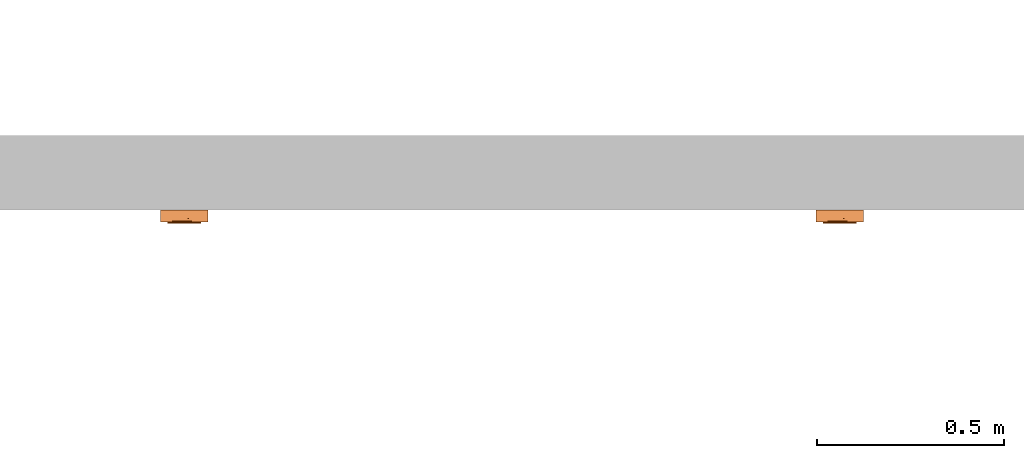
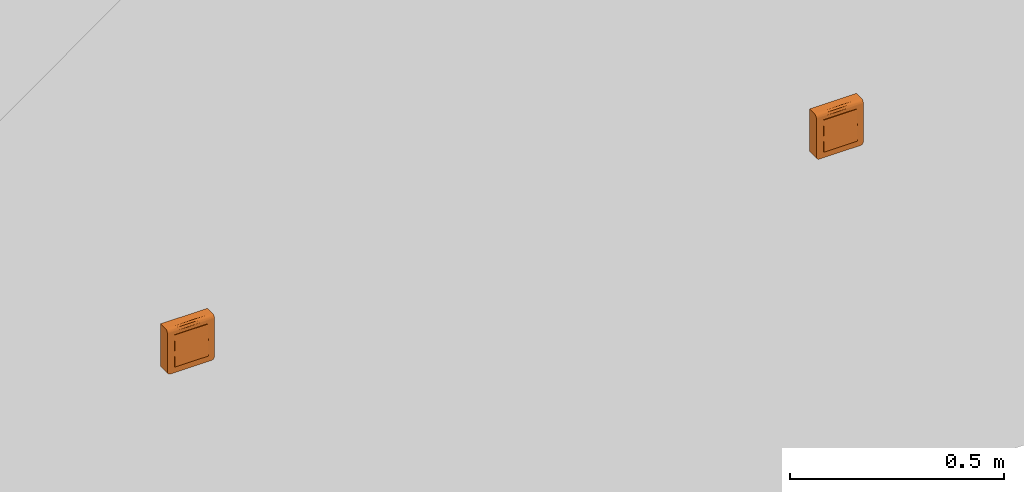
# One storey, part 172 of 197: 2 proxies.
"""IFC2X3 building model written with IfcOpenShell, lengths in metres."""

from ifc_helpers import new_model, entity, si_unit, converted_unit, direction, frame, origin, place, context, subcontext, project, spatial, faceted_brep, source, transform, mapped, material, material_list, type_object, type_shapes, element, save


model = new_model("IFC2X3")

# Units and contexts
model_context = context("Model", 3, precision=1e-05, world=origin(), true_north=direction((6.123031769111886e-17, 1.0)))
body_context = subcontext(model_context, "Body", "Model", "MODEL_VIEW")
ifc_project = project(units=[si_unit("LENGTHUNIT", "METRE"), converted_unit("PLANEANGLEUNIT", "DEGREE", entity("IfcPlaneAngleMeasure", 0.017453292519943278), si_unit("PLANEANGLEUNIT", "RADIAN"), dimensions=[0, 0, 0, 0, 0, 0, 0]), si_unit("AREAUNIT", "SQUARE_METRE")], contexts=[model_context])

# Site, building, storey
site_placement = place(None, origin())
site = spatial("IfcSite", under=ifc_project, at=site_placement, Name="Default", CompositionType="ELEMENT")
building_placement = place(site_placement, origin())
building = spatial("IfcBuilding", under=site, at=building_placement, CompositionType="ELEMENT")
storey_placement = place(building_placement, origin())
storey = spatial("IfcBuildingStorey", under=building, at=storey_placement, Name="Niveau 0", CompositionType="ELEMENT", Elevation=0.0)

# Proxies
ifc_material_1 = material(Name="BETCE-CADRE-BLANC")
ifc_material_2 = material(Name="BETCE-DOIGT-BLANC")
ifc_material_3 = material(Name="BETCE-ENJOLIVEUR-BLANC")
ifc_material_list = material_list([ifc_material_1, ifc_material_2, ifc_material_3])
building_element_proxy_type_1 = type_object("IfcBuildingElementProxyType", Name="Tableau commande 2x4 modules saillie:7 SA + 1 VV", PredefinedType="NOTDEFINED", material=ifc_material_list)
shared_shape_1 = source(origin(), body_context, "Body", "Brep", [
    faceted_brep([(0.06349999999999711, -0.022999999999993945, 0.0635), (-0.06350000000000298, -0.022999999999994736, 0.0635), (-0.06350000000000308, -0.022999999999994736, -0.055499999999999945), (-0.06322740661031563, -0.022999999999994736, -0.05757055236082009), (-0.06242820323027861, -0.02299999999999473, -0.059499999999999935), (-0.06115685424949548, -0.022999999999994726, -0.06115685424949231), (-0.05950000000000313, -0.022999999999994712, -0.06242820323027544), (-0.05757055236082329, -0.0229999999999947, -0.06322740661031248), (-0.05550000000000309, -0.022999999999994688, -0.06350000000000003), (0.055499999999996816, -0.022999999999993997, -0.0635000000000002), (0.057570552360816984, -0.022999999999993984, -0.06322740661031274), (0.05949999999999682, -0.022999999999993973, -0.062428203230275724), (0.06115685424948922, -0.022999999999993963, -0.061156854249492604), (0.062428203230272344, -0.022999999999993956, -0.05950000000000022), (0.0632274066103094, -0.022999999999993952, -0.0575705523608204), (0.06349999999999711, -0.022999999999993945, -0.05550000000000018), (-0.05550000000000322, 0.0, -0.06349999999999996), (-0.05757055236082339, 0.0, -0.06322740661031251), (-0.05950000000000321, 0.0, -0.062428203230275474), (-0.06115685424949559, 0.0, -0.06115685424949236), (-0.06242820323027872, 0.0, -0.05949999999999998), (-0.06322740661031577, 0.0, -0.05757055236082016), (-0.06350000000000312, 0.0, -0.055499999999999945), (-0.06350000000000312, 0.0, 0.0635), (0.06349999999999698, 0.0, 0.0635), (0.06349999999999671, 0.0, -0.05550000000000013), (0.06322740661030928, 0.0, -0.0575705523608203), (0.06242820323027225, 0.0, -0.05950000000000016), (0.06115685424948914, 0.0, -0.061156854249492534), (0.059499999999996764, 0.0, -0.062428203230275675), (0.05757055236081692, 0.0, -0.06322740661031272), (0.055499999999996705, 0.0, -0.0635)], [[[0, 1, 2, 3, 4, 5, 6, 7, 8, 9, 10, 11, 12, 13, 14, 15]], [[16, 17, 18, 19, 20, 21, 22, 23, 24, 25, 26, 27, 28, 29, 30, 31]], [[2, 1, 23, 22]], [[9, 8, 16, 31]], [[0, 15, 25, 24]], [[1, 0, 24, 23]], [[25, 15, 14, 26]], [[26, 14, 13, 27]], [[27, 13, 12, 28]], [[29, 11, 10, 30]], [[30, 10, 9, 31]], [[28, 12, 11, 29]], [[17, 16, 8, 7]], [[18, 17, 7, 6]], [[19, 18, 6, 5]], [[20, 19, 5, 4]], [[21, 20, 4, 3]], [[22, 21, 3, 2]]]),
    faceted_brep([(0.022499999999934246, -0.022999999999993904, -0.045000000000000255), (0.022499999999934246, -0.022999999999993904, 0.0), (0.04499999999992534, -0.022999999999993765, 0.0), (0.04499999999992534, -0.022999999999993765, -0.045000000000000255), (0.022499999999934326, -0.03574999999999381, -0.045000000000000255), (0.02249999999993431, -0.033499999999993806, 0.0), (0.044999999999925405, -0.03349999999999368, 0.0), (0.04499999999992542, -0.03574999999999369, -0.045000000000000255)], [[[0, 1, 2, 3]], [[1, 0, 4, 5]], [[2, 1, 5, 6]], [[3, 2, 6, 7]], [[0, 3, 7, 4]], [[5, 4, 7, 6]]]),
    faceted_brep([(0.0, -0.022999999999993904, -0.04500000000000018), (0.0, -0.022999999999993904, 0.0), (0.02249999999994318, -0.022999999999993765, 0.0), (0.02249999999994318, -0.022999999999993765, -0.04500000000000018), (0.0, -0.03574999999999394, -0.04500000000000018), (0.0, -0.03349999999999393, 0.0), (0.022499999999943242, -0.033499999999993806, 0.0), (0.02249999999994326, -0.03574999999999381, -0.04500000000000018)], [[[0, 1, 2, 3]], [[1, 0, 4, 5]], [[2, 1, 5, 6]], [[3, 2, 6, 7]], [[0, 3, 7, 4]], [[5, 4, 7, 6]]]),
    faceted_brep([(-0.02250000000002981, -0.022999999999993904, -0.0450000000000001), (-0.02250000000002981, -0.022999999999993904, 0.0), (0.0, -0.022999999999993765, 0.0), (0.0, -0.022999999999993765, -0.0450000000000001), (-0.02250000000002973, -0.03574999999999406, -0.0450000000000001), (-0.022500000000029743, -0.03349999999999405, 0.0), (0.0, -0.033499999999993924, 0.0), (0.0, -0.03574999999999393, -0.0450000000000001)], [[[0, 1, 2, 3]], [[1, 0, 4, 5]], [[2, 1, 5, 6]], [[3, 2, 6, 7]], [[0, 3, 7, 4]], [[5, 4, 7, 6]]]),
    faceted_brep([(-0.04500000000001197, -0.022999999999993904, -0.045000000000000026), (-0.04500000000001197, -0.022999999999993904, 0.0), (-0.022500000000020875, -0.022999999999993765, 0.0), (-0.022500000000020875, -0.022999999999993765, -0.045000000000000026), (-0.04500000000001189, -0.03574999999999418, -0.045000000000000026), (-0.0450000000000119, -0.03349999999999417, 0.0), (-0.02250000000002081, -0.03349999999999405, 0.0), (-0.022500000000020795, -0.03574999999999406, -0.045000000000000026)], [[[0, 1, 2, 3]], [[1, 0, 4, 5]], [[2, 1, 5, 6]], [[3, 2, 6, 7]], [[0, 3, 7, 4]], [[5, 4, 7, 6]]]),
    faceted_brep([(0.02249999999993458, -0.03349999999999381, 0.04499999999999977), (0.022499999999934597, -0.03574999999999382, 0.0), (0.04499999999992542, -0.0357499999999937, 0.0), (0.044999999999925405, -0.03349999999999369, 0.04499999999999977), (0.022499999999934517, -0.022999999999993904, 0.0), (0.022499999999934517, -0.022999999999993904, 0.04499999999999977), (0.04499999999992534, -0.022999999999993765, 0.04499999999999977), (0.04499999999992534, -0.022999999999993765, 0.0)], [[[0, 1, 2, 3]], [[4, 5, 6, 7]], [[5, 4, 1, 0]], [[6, 5, 0, 3]], [[7, 6, 3, 2]], [[4, 7, 2, 1]]]),
    faceted_brep([(0.0, -0.03349999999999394, 0.044999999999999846), (0.0, -0.035749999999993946, 0.0), (0.02249999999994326, -0.03574999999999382, 0.0), (0.022499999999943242, -0.03349999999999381, 0.044999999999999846), (0.0, -0.022999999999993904, 0.0), (0.0, -0.022999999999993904, 0.044999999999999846), (0.02249999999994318, -0.022999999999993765, 0.04499999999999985), (0.02249999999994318, -0.022999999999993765, 0.0)], [[[0, 1, 2, 3]], [[4, 5, 6, 7]], [[5, 4, 1, 0]], [[6, 5, 0, 3]], [[7, 6, 3, 2]], [[4, 7, 2, 1]]]),
    faceted_brep([(-0.022500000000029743, -0.03349999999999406, 0.04499999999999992), (-0.02250000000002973, -0.03574999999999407, 0.0), (0.0, -0.03574999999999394, 0.0), (0.0, -0.03349999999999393, 0.04499999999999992), (-0.02250000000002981, -0.022999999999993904, 0.0), (-0.02250000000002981, -0.022999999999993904, 0.04499999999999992), (0.0, -0.022999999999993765, 0.04499999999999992), (0.0, -0.022999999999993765, 0.0)], [[[0, 1, 2, 3]], [[4, 5, 6, 7]], [[5, 4, 1, 0]], [[6, 5, 0, 3]], [[7, 6, 3, 2]], [[4, 7, 2, 1]]]),
    faceted_brep([(-0.04500000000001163, -0.03349999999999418, 0.045), (-0.045000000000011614, -0.03574999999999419, 0.0), (-0.022500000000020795, -0.035749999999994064, 0.0), (-0.02250000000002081, -0.03349999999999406, 0.045), (-0.0450000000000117, -0.022999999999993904, 0.0), (-0.0450000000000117, -0.022999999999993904, 0.045), (-0.022500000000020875, -0.022999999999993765, 0.045000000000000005), (-0.022500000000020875, -0.022999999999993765, 0.0)], [[[0, 1, 2, 3]], [[4, 5, 6, 7]], [[5, 4, 1, 0]], [[6, 5, 0, 3]], [[7, 6, 3, 2]], [[4, 7, 2, 1]]]),
    faceted_brep([(0.06349999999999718, -0.03199999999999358, -0.055500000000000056), (0.063499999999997, -0.03199999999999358, 0.05450000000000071), (0.04499999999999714, -0.03199999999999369, -0.045000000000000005), (0.05549999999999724, -0.03199999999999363, -0.06350000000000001), (0.057570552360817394, -0.03199999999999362, -0.06322740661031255), (0.06322740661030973, -0.03199999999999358, -0.05757055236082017), (0.04499999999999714, -0.03199999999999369, 0.045), (-0.04500000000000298, -0.031999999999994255, 0.045000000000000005), (-0.011124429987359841, -0.03199999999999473, 0.054500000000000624), (-0.06350000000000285, -0.03199999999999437, 0.05450000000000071), (-0.04500000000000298, -0.031999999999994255, -0.045000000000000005), (-0.06350000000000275, -0.03199999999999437, -0.05550000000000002), (-0.05550000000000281, -0.03199999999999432, -0.06350000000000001), (-0.05757055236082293, -0.03199999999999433, -0.06322740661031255), (-0.06322740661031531, -0.031999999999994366, -0.05757055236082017), (-0.05950000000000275, -0.031999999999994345, -0.062428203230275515), (-0.06242820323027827, -0.03199999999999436, -0.05950000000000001), (-0.06115685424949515, -0.03199999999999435, -0.06115685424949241), (0.05949999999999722, -0.0319999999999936, -0.062428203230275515), (0.062428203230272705, -0.03199999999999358, -0.05949999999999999), (0.06115685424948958, -0.031999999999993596, -0.061156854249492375), (-0.06350000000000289, -0.02299999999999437, -0.05550000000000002), (-0.06350000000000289, -0.02299999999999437, 0.06350000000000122), (-0.04500000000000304, -0.02299999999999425, 0.045000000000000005), (-0.04500000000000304, -0.02299999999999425, -0.045000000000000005), (-0.05550000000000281, -0.02299999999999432, -0.06350000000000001), (-0.06322740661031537, -0.022999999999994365, -0.05757055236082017), (0.04499999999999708, -0.022999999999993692, 0.045000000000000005), (0.011124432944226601, -0.022999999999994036, 0.06350000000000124), (0.06349999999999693, -0.022999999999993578, 0.0635), (0.06349999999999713, -0.022999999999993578, -0.05550000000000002), (0.04499999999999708, -0.022999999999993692, -0.045000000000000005), (0.05549999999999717, -0.02299999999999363, -0.06350000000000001), (0.06322740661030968, -0.022999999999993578, -0.05757055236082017), (0.05757055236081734, -0.022999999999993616, -0.06322740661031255), (0.06242820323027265, -0.022999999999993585, -0.05949999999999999), (0.05949999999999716, -0.022999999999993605, -0.062428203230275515), (0.06115685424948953, -0.02299999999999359, -0.061156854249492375), (-0.05757055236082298, -0.02299999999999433, -0.06322740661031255), (-0.062428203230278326, -0.022999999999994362, -0.05950000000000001), (-0.05950000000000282, -0.022999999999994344, -0.062428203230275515), (-0.0611568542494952, -0.02299999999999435, -0.06115685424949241), (0.06349999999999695, -0.025329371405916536, 0.06319333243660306), (0.06349999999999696, -0.02749999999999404, 0.06229422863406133), (0.06349999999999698, -0.029363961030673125, 0.060863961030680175), (0.06349999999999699, -0.03079422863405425, 0.05900000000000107), (0.06349999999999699, -0.03169333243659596, 0.05682937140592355), (-0.06350000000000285, -0.03169333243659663, 0.0568293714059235), (-0.06350000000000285, -0.030794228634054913, 0.059000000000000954), (-0.06350000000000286, -0.029363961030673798, 0.06086396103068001), (-0.06350000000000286, -0.027499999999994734, 0.062294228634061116), (-0.06350000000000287, -0.025329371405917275, 0.06319333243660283), (-0.010857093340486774, -0.029120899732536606, 0.06109807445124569)], [[[0, 1, 2]], [[3, 0, 2]], [[0, 3, 4]], [[5, 0, 4]], [[2, 1, 6]], [[1, 7, 6]], [[7, 1, 8]], [[7, 8, 9]], [[10, 7, 9]], [[11, 10, 9]], [[12, 10, 11]], [[12, 11, 13]], [[13, 11, 14]], [[15, 13, 14]], [[16, 15, 14]], [[15, 16, 17]], [[10, 12, 3]], [[2, 10, 3]], [[5, 4, 18]], [[5, 18, 19]], [[20, 19, 18]], [[21, 22, 23]], [[24, 21, 23]], [[25, 21, 24]], [[26, 21, 25]], [[22, 27, 23]], [[27, 22, 28]], [[27, 28, 29]], [[30, 27, 29]], [[31, 27, 30]], [[32, 31, 30]], [[32, 30, 33]], [[32, 33, 34]], [[33, 35, 34]], [[35, 36, 34]], [[36, 35, 37]], [[31, 32, 25]], [[26, 25, 38]], [[24, 31, 25]], [[39, 26, 38]], [[39, 38, 40]], [[41, 39, 40]], [[1, 0, 30, 29, 42, 43, 44, 45, 46]], [[33, 30, 0, 5]], [[35, 33, 5, 19]], [[37, 35, 19, 20]], [[36, 37, 20, 18]], [[34, 36, 18, 4]], [[32, 34, 4, 3]], [[25, 32, 3, 12]], [[38, 25, 12, 13]], [[40, 38, 13, 15]], [[41, 40, 15, 17]], [[39, 41, 17, 16]], [[26, 39, 16, 14]], [[21, 26, 14, 11]], [[22, 21, 11, 9, 47, 48, 49, 50, 51]], [[24, 23, 7, 10]], [[31, 24, 10, 2]], [[27, 31, 2, 6]], [[23, 27, 6, 7]], [[52, 8, 45]], [[47, 9, 8]], [[1, 46, 8]], [[44, 52, 45]], [[46, 45, 8]], [[50, 52, 51]], [[48, 47, 8]], [[28, 52, 43]], [[48, 52, 49]], [[42, 29, 28]], [[28, 22, 51]], [[48, 8, 52]], [[28, 43, 42]], [[44, 43, 52]], [[52, 50, 49]], [[52, 28, 51]]]),
])
type_shapes(building_element_proxy_type_1, [shared_shape_1])
proxy_1_placement = place(storey_placement, frame((-336.2517796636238, 116.01635778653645, 1.1)))
element("IfcBuildingElementProxy", 1, at=proxy_1_placement, inside=storey, type_object=building_element_proxy_type_1, material=ifc_material_list, Name="Tableau commande 2x4 modules saillie:7 SA + 1 VV", ObjectType="Tableau commande 2x4 modules saillie:7 SA + 1 VV", context=body_context, shape_type="MappedRepresentation", body=[
    mapped(shared_shape_1, transform((0.0, 0.0, 0.0), scale=1.0)),
])
building_element_proxy_type_2 = type_object("IfcBuildingElementProxyType", Name="Tableau commande 2x4 modules saillie:2 BP + 2 SA + 4 VV", PredefinedType="NOTDEFINED", material=ifc_material_list)
shared_shape_2 = source(origin(), body_context, "Body", "Brep", [
    faceted_brep([(0.06349999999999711, -0.022999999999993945, 0.0635), (-0.06350000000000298, -0.022999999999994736, 0.0635), (-0.06350000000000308, -0.022999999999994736, -0.055499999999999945), (-0.06322740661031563, -0.022999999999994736, -0.05757055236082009), (-0.06242820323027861, -0.02299999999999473, -0.059499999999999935), (-0.06115685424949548, -0.022999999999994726, -0.06115685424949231), (-0.05950000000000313, -0.022999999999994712, -0.06242820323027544), (-0.05757055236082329, -0.0229999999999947, -0.06322740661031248), (-0.05550000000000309, -0.022999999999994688, -0.06350000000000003), (0.055499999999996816, -0.022999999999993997, -0.0635000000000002), (0.057570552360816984, -0.022999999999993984, -0.06322740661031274), (0.05949999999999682, -0.022999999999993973, -0.062428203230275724), (0.06115685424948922, -0.022999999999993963, -0.061156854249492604), (0.062428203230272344, -0.022999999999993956, -0.05950000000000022), (0.0632274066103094, -0.022999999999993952, -0.0575705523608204), (0.06349999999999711, -0.022999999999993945, -0.05550000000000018), (-0.05550000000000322, 0.0, -0.06349999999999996), (-0.05757055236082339, 0.0, -0.06322740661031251), (-0.05950000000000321, 0.0, -0.062428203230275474), (-0.06115685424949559, 0.0, -0.06115685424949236), (-0.06242820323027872, 0.0, -0.05949999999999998), (-0.06322740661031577, 0.0, -0.05757055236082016), (-0.06350000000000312, 0.0, -0.055499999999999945), (-0.06350000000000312, 0.0, 0.0635), (0.06349999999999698, 0.0, 0.0635), (0.06349999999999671, 0.0, -0.05550000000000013), (0.06322740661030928, 0.0, -0.0575705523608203), (0.06242820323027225, 0.0, -0.05950000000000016), (0.06115685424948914, 0.0, -0.061156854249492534), (0.059499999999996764, 0.0, -0.062428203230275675), (0.05757055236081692, 0.0, -0.06322740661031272), (0.055499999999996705, 0.0, -0.0635)], [[[0, 1, 2, 3, 4, 5, 6, 7, 8, 9, 10, 11, 12, 13, 14, 15]], [[16, 17, 18, 19, 20, 21, 22, 23, 24, 25, 26, 27, 28, 29, 30, 31]], [[2, 1, 23, 22]], [[9, 8, 16, 31]], [[0, 15, 25, 24]], [[1, 0, 24, 23]], [[25, 15, 14, 26]], [[26, 14, 13, 27]], [[27, 13, 12, 28]], [[29, 11, 10, 30]], [[30, 10, 9, 31]], [[28, 12, 11, 29]], [[17, 16, 8, 7]], [[18, 17, 7, 6]], [[19, 18, 6, 5]], [[20, 19, 5, 4]], [[21, 20, 4, 3]], [[22, 21, 3, 2]]]),
    faceted_brep([(0.022499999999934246, -0.022999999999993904, -0.045000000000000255), (0.022499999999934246, -0.022999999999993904, 0.0), (0.04499999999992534, -0.022999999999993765, 0.0), (0.04499999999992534, -0.022999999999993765, -0.045000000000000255), (0.022499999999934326, -0.03574999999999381, -0.045000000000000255), (0.02249999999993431, -0.033499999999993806, 0.0), (0.044999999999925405, -0.03349999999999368, 0.0), (0.04499999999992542, -0.03574999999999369, -0.045000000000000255)], [[[0, 1, 2, 3]], [[1, 0, 4, 5]], [[2, 1, 5, 6]], [[3, 2, 6, 7]], [[0, 3, 7, 4]], [[5, 4, 7, 6]]]),
    faceted_brep([(0.0, -0.022999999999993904, -0.04500000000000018), (0.0, -0.022999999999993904, 0.0), (0.02249999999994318, -0.022999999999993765, 0.0), (0.02249999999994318, -0.022999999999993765, -0.04500000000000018), (0.0, -0.03574999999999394, -0.04500000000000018), (0.0, -0.03349999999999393, 0.0), (0.022499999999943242, -0.033499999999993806, 0.0), (0.02249999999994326, -0.03574999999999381, -0.04500000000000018)], [[[0, 1, 2, 3]], [[1, 0, 4, 5]], [[2, 1, 5, 6]], [[3, 2, 6, 7]], [[0, 3, 7, 4]], [[5, 4, 7, 6]]]),
    faceted_brep([(-0.02250000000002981, -0.022999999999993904, -0.0450000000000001), (-0.02250000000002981, -0.022999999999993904, 0.0), (0.0, -0.022999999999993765, 0.0), (0.0, -0.022999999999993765, -0.0450000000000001), (-0.02250000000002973, -0.03574999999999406, -0.0450000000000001), (-0.022500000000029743, -0.03349999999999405, 0.0), (0.0, -0.033499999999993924, 0.0), (0.0, -0.03574999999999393, -0.0450000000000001)], [[[0, 1, 2, 3]], [[1, 0, 4, 5]], [[2, 1, 5, 6]], [[3, 2, 6, 7]], [[0, 3, 7, 4]], [[5, 4, 7, 6]]]),
    faceted_brep([(-0.04500000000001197, -0.022999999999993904, -0.045000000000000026), (-0.04500000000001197, -0.022999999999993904, 0.0), (-0.022500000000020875, -0.022999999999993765, 0.0), (-0.022500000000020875, -0.022999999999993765, -0.045000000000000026), (-0.04500000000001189, -0.03574999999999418, -0.045000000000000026), (-0.0450000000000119, -0.03349999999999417, 0.0), (-0.02250000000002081, -0.03349999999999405, 0.0), (-0.022500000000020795, -0.03574999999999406, -0.045000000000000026)], [[[0, 1, 2, 3]], [[1, 0, 4, 5]], [[2, 1, 5, 6]], [[3, 2, 6, 7]], [[0, 3, 7, 4]], [[5, 4, 7, 6]]]),
    faceted_brep([(0.02249999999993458, -0.03349999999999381, 0.04499999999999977), (0.022499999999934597, -0.03574999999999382, 0.0), (0.04499999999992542, -0.0357499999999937, 0.0), (0.044999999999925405, -0.03349999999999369, 0.04499999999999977), (0.022499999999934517, -0.022999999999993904, 0.0), (0.022499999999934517, -0.022999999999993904, 0.04499999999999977), (0.04499999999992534, -0.022999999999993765, 0.04499999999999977), (0.04499999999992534, -0.022999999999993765, 0.0)], [[[0, 1, 2, 3]], [[4, 5, 6, 7]], [[5, 4, 1, 0]], [[6, 5, 0, 3]], [[7, 6, 3, 2]], [[4, 7, 2, 1]]]),
    faceted_brep([(0.0, -0.03349999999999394, 0.044999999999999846), (0.0, -0.035749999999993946, 0.0), (0.02249999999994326, -0.03574999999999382, 0.0), (0.022499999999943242, -0.03349999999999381, 0.044999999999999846), (0.0, -0.022999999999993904, 0.0), (0.0, -0.022999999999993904, 0.044999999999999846), (0.02249999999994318, -0.022999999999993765, 0.04499999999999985), (0.02249999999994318, -0.022999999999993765, 0.0)], [[[0, 1, 2, 3]], [[4, 5, 6, 7]], [[5, 4, 1, 0]], [[6, 5, 0, 3]], [[7, 6, 3, 2]], [[4, 7, 2, 1]]]),
    faceted_brep([(-0.022500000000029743, -0.03349999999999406, 0.04499999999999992), (-0.02250000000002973, -0.03574999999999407, 0.0), (0.0, -0.03574999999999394, 0.0), (0.0, -0.03349999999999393, 0.04499999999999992), (-0.02250000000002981, -0.022999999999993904, 0.0), (-0.02250000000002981, -0.022999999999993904, 0.04499999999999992), (0.0, -0.022999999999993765, 0.04499999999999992), (0.0, -0.022999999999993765, 0.0)], [[[0, 1, 2, 3]], [[4, 5, 6, 7]], [[5, 4, 1, 0]], [[6, 5, 0, 3]], [[7, 6, 3, 2]], [[4, 7, 2, 1]]]),
    faceted_brep([(-0.04500000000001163, -0.03349999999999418, 0.045), (-0.045000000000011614, -0.03574999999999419, 0.0), (-0.022500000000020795, -0.035749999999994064, 0.0), (-0.02250000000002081, -0.03349999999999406, 0.045), (-0.0450000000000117, -0.022999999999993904, 0.0), (-0.0450000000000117, -0.022999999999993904, 0.045), (-0.022500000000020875, -0.022999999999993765, 0.045000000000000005), (-0.022500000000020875, -0.022999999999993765, 0.0)], [[[0, 1, 2, 3]], [[4, 5, 6, 7]], [[5, 4, 1, 0]], [[6, 5, 0, 3]], [[7, 6, 3, 2]], [[4, 7, 2, 1]]]),
    faceted_brep([(0.06349999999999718, -0.03199999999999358, -0.055500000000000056), (0.063499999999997, -0.03199999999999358, 0.05450000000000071), (0.04499999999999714, -0.03199999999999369, -0.045000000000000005), (0.05549999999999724, -0.03199999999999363, -0.06350000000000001), (0.057570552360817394, -0.03199999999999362, -0.06322740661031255), (0.06322740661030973, -0.03199999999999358, -0.05757055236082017), (0.04499999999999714, -0.03199999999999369, 0.045), (-0.04500000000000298, -0.031999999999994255, 0.045000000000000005), (-0.011124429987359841, -0.03199999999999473, 0.054500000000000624), (-0.06350000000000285, -0.03199999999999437, 0.05450000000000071), (-0.04500000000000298, -0.031999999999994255, -0.045000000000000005), (-0.06350000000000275, -0.03199999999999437, -0.05550000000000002), (-0.05550000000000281, -0.03199999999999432, -0.06350000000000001), (-0.05757055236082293, -0.03199999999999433, -0.06322740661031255), (-0.06322740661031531, -0.031999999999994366, -0.05757055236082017), (-0.05950000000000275, -0.031999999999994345, -0.062428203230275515), (-0.06242820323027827, -0.03199999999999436, -0.05950000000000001), (-0.06115685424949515, -0.03199999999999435, -0.06115685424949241), (0.05949999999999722, -0.0319999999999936, -0.062428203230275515), (0.062428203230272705, -0.03199999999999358, -0.05949999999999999), (0.06115685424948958, -0.031999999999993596, -0.061156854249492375), (-0.06350000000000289, -0.02299999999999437, -0.05550000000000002), (-0.06350000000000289, -0.02299999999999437, 0.06350000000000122), (-0.04500000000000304, -0.02299999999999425, 0.045000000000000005), (-0.04500000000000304, -0.02299999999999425, -0.045000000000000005), (-0.05550000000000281, -0.02299999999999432, -0.06350000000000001), (-0.06322740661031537, -0.022999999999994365, -0.05757055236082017), (0.04499999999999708, -0.022999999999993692, 0.045000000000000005), (0.011124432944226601, -0.022999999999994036, 0.06350000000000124), (0.06349999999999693, -0.022999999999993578, 0.0635), (0.06349999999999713, -0.022999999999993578, -0.05550000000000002), (0.04499999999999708, -0.022999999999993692, -0.045000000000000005), (0.05549999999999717, -0.02299999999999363, -0.06350000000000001), (0.06322740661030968, -0.022999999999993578, -0.05757055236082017), (0.05757055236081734, -0.022999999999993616, -0.06322740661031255), (0.06242820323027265, -0.022999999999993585, -0.05949999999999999), (0.05949999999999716, -0.022999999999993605, -0.062428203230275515), (0.06115685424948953, -0.02299999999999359, -0.061156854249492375), (-0.05757055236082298, -0.02299999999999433, -0.06322740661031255), (-0.062428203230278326, -0.022999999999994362, -0.05950000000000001), (-0.05950000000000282, -0.022999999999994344, -0.062428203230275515), (-0.0611568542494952, -0.02299999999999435, -0.06115685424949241), (0.06349999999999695, -0.025329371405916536, 0.06319333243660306), (0.06349999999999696, -0.02749999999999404, 0.06229422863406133), (0.06349999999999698, -0.029363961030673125, 0.060863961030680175), (0.06349999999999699, -0.03079422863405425, 0.05900000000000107), (0.06349999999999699, -0.03169333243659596, 0.05682937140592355), (-0.06350000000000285, -0.03169333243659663, 0.0568293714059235), (-0.06350000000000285, -0.030794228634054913, 0.059000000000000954), (-0.06350000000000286, -0.029363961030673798, 0.06086396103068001), (-0.06350000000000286, -0.027499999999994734, 0.062294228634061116), (-0.06350000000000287, -0.025329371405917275, 0.06319333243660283), (-0.010857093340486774, -0.029120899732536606, 0.06109807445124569)], [[[0, 1, 2]], [[3, 0, 2]], [[0, 3, 4]], [[5, 0, 4]], [[2, 1, 6]], [[1, 7, 6]], [[7, 1, 8]], [[7, 8, 9]], [[10, 7, 9]], [[11, 10, 9]], [[12, 10, 11]], [[12, 11, 13]], [[13, 11, 14]], [[15, 13, 14]], [[16, 15, 14]], [[15, 16, 17]], [[10, 12, 3]], [[2, 10, 3]], [[5, 4, 18]], [[5, 18, 19]], [[20, 19, 18]], [[21, 22, 23]], [[24, 21, 23]], [[25, 21, 24]], [[26, 21, 25]], [[22, 27, 23]], [[27, 22, 28]], [[27, 28, 29]], [[30, 27, 29]], [[31, 27, 30]], [[32, 31, 30]], [[32, 30, 33]], [[32, 33, 34]], [[33, 35, 34]], [[35, 36, 34]], [[36, 35, 37]], [[31, 32, 25]], [[26, 25, 38]], [[24, 31, 25]], [[39, 26, 38]], [[39, 38, 40]], [[41, 39, 40]], [[1, 0, 30, 29, 42, 43, 44, 45, 46]], [[33, 30, 0, 5]], [[35, 33, 5, 19]], [[37, 35, 19, 20]], [[36, 37, 20, 18]], [[34, 36, 18, 4]], [[32, 34, 4, 3]], [[25, 32, 3, 12]], [[38, 25, 12, 13]], [[40, 38, 13, 15]], [[41, 40, 15, 17]], [[39, 41, 17, 16]], [[26, 39, 16, 14]], [[21, 26, 14, 11]], [[22, 21, 11, 9, 47, 48, 49, 50, 51]], [[24, 23, 7, 10]], [[31, 24, 10, 2]], [[27, 31, 2, 6]], [[23, 27, 6, 7]], [[52, 8, 45]], [[47, 9, 8]], [[1, 46, 8]], [[44, 52, 45]], [[46, 45, 8]], [[50, 52, 51]], [[48, 47, 8]], [[28, 52, 43]], [[48, 52, 49]], [[42, 29, 28]], [[28, 22, 51]], [[48, 8, 52]], [[28, 43, 42]], [[44, 43, 52]], [[52, 50, 49]], [[52, 28, 51]]]),
])
type_shapes(building_element_proxy_type_2, [shared_shape_2])
proxy_2_placement = place(storey_placement, frame((-334.49877966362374, 116.01635778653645, 1.1)))
element("IfcBuildingElementProxy", 2, at=proxy_2_placement, inside=storey, type_object=building_element_proxy_type_2, material=ifc_material_list, Name="Tableau commande 2x4 modules saillie:2 BP + 2 SA + 4 VV", ObjectType="Tableau commande 2x4 modules saillie:2 BP + 2 SA + 4 VV", context=body_context, shape_type="MappedRepresentation", body=[
    mapped(shared_shape_2, transform((0.0, 0.0, 0.0), scale=1.0)),
])

save(model, "model.ifc")
